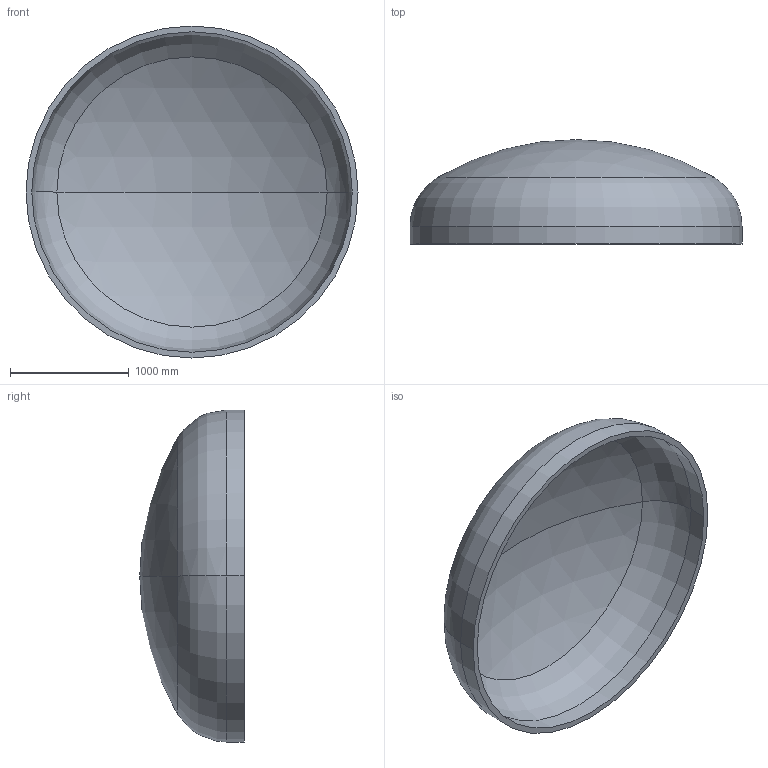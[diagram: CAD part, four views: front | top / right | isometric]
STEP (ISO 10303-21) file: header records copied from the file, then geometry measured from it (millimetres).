
FILE_DESCRIPTION (( 'STEP AP203' ), '1' );
FILE_NAME ('DIN 28013 Korbbogenform_-_Boden DIN 28013 - 2800 x 150 - I - s=49.step', '2016-07-01T17:03:06', ( '' ), ( '' ), 'SwSTEP 2.0', 'SolidWorks 2013', '' );
FILE_SCHEMA (( 'CONFIG_CONTROL_DESIGN' ));
Length unit declared in the file: millimetre
Products named in the file (1): DIN 28013 Korbbogenform_-_Boden DIN 28013 - 2800 x 150 - I - s=49
Bounding box: 2800 x 880.84 x 2800 mm (x, y, z)
Volume: 471640428.2 mm3; surface area: 19679135.5 mm2
Topology: 1 solids, 1 shells, 13 faces, 24 edges, 14 vertices
Faces by surface type: torus 4, cylinder 4, sphere 4, plane 1
Entity records: 407 total; most frequent: DIRECTION 72, CARTESIAN_POINT 52, ORIENTED_EDGE 48, AXIS2_PLACEMENT_3D 34, EDGE_CURVE 24, CIRCLE 20, VERTEX_POINT 14, EDGE_LOOP 14
